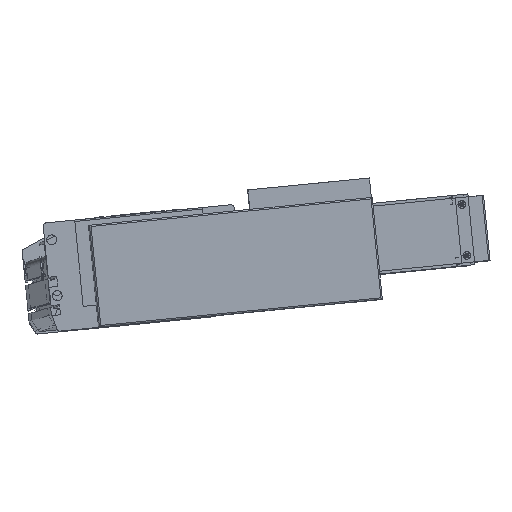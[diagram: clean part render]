
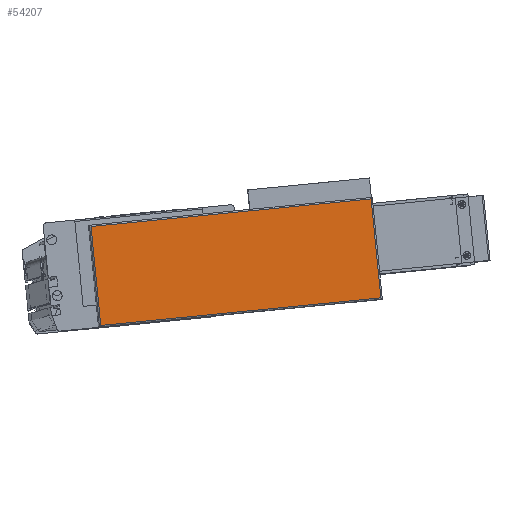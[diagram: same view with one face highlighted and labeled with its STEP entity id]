
A CAD part, top view. The second image highlights one B-rep face of the part: STEP entity #54207.
In plain terms, the highlighted planar face has unit normal (0.017, 0.003, 1) as drawn and (0, 0, 1) by its records, which use the part's own axes.
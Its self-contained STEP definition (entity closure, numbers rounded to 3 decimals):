
#47573 = CARTESIAN_POINT ( 'NONE',  ( 163.25, 71., 44. ) ) ;
#47582 = CARTESIAN_POINT ( 'NONE',  ( -35.75, 0., 44. ) ) ;
#47583 = PLANE ( 'NONE',  #47606 ) ;
#47592 = CARTESIAN_POINT ( 'NONE',  ( -34.75, 1., 44. ) ) ;
#47594 = CARTESIAN_POINT ( 'NONE',  ( -34.75, 71., 44. ) ) ;
#47597 = CARTESIAN_POINT ( 'NONE',  ( 164.25, 1., 44. ) ) ;
#47598 = LINE ( 'NONE', #47597, #47656 ) ;
#47599 = DIRECTION ( 'NONE',  ( 0., 1., 0. ) ) ;
#47600 = VECTOR ( 'NONE', #47599, 1000. ) ;
#47601 = CARTESIAN_POINT ( 'NONE',  ( 163.25, 72., 44. ) ) ;
#47603 = LINE ( 'NONE', #47601, #47600 ) ;
#47604 = DIRECTION ( 'NONE',  ( 1., 0., 0. ) ) ;
#47605 = DIRECTION ( 'NONE',  ( 0., 0., 1. ) ) ;
#47606 = AXIS2_PLACEMENT_3D ( 'NONE', #47582, #47605, #47604 ) ;
#47612 = FACE_OUTER_BOUND ( 'NONE', #54210, .T. ) ;
#47613 = CARTESIAN_POINT ( 'NONE',  ( 163.25, 1., 44. ) ) ;
#47636 = DIRECTION ( 'NONE',  ( 0., -1., 0. ) ) ;
#47637 = VECTOR ( 'NONE', #47636, 1000. ) ;
#47638 = CARTESIAN_POINT ( 'NONE',  ( -34.75, 0., 44. ) ) ;
#47639 = LINE ( 'NONE', #47638, #47637 ) ;
#47642 = DIRECTION ( 'NONE',  ( -1., 0., 0. ) ) ;
#47643 = VECTOR ( 'NONE', #47642, 1000. ) ;
#47646 = CARTESIAN_POINT ( 'NONE',  ( -35.75, 71., 44. ) ) ;
#47647 = LINE ( 'NONE', #47646, #47643 ) ;
#47655 = DIRECTION ( 'NONE',  ( 1., 0., 0. ) ) ;
#47656 = VECTOR ( 'NONE', #47655, 1000. ) ;
#54207 = ADVANCED_FACE ( 'NONE', ( #47612 ), #47583, .T. ) ;
#54208 = VERTEX_POINT ( 'NONE', #47613 ) ;
#54210 = EDGE_LOOP ( 'NONE', ( #54213, #54211, #54222, #54218 ) ) ;
#54211 = ORIENTED_EDGE ( 'NONE', *, *, #54214, .T. ) ;
#54212 = VERTEX_POINT ( 'NONE', #47573 ) ;
#54213 = ORIENTED_EDGE ( 'NONE', *, *, #54216, .T. ) ;
#54214 = EDGE_CURVE ( 'NONE', #54208, #54212, #47603, .T. ) ;
#54216 = EDGE_CURVE ( 'NONE', #54217, #54208, #47598, .T. ) ;
#54217 = VERTEX_POINT ( 'NONE', #47592 ) ;
#54218 = ORIENTED_EDGE ( 'NONE', *, *, #54223, .T. ) ;
#54220 = VERTEX_POINT ( 'NONE', #47594 ) ;
#54221 = EDGE_CURVE ( 'NONE', #54212, #54220, #47647, .T. ) ;
#54222 = ORIENTED_EDGE ( 'NONE', *, *, #54221, .T. ) ;
#54223 = EDGE_CURVE ( 'NONE', #54220, #54217, #47639, .T. ) ;
